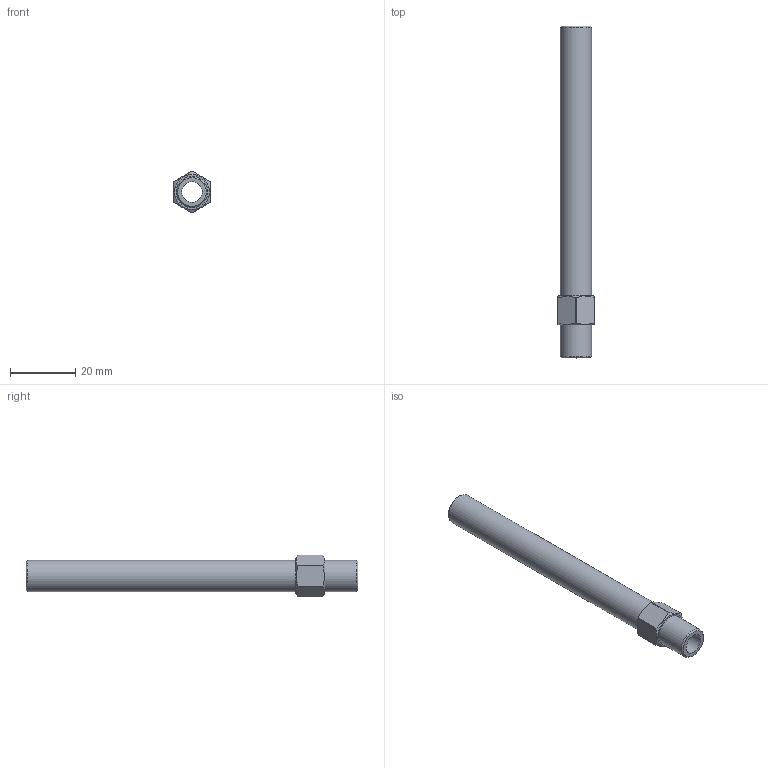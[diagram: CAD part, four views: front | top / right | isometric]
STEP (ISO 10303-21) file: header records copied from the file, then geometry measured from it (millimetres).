
FILE_DESCRIPTION(/* description */ (''),/* implementation_level */ '2;1');
FILE_NAME(/* name */ 'C:/Users/drich/Desktop/APN18-4 v1.step',/* time_stamp */ '2019-12-27T17:51:35-06:00',/* author */ (''),/* organization */ (''),/* preprocessor_version */ 'ST-DEVELOPER v18',/* originating_system */ 'Autodesk Translation Framework v8.12.0.6',/* authorisation */ '');
FILE_SCHEMA (('AUTOMOTIVE_DESIGN { 1 0 10303 214 3 1 1 }'));
Length unit declared in the file: inch
Products named in the file (1): APN18-4
Bounding box: 11.07 x 101.6 x 12.7 mm (x, y, z)
Volume: 4454.4 mm3; surface area: 5284.6 mm2
Topology: 1 solids, 1 shells, 23 faces, 59 edges, 40 vertices
Faces by surface type: plane 10, cylinder 9, cone 4
Full cylindrical faces by diameter (mm): 6.35 x1, 9.621 x2
Entity records: 751 total; most frequent: CARTESIAN_POINT 147, DIRECTION 123, ORIENTED_EDGE 118, EDGE_CURVE 59, AXIS2_PLACEMENT_3D 52, VERTEX_POINT 40, CIRCLE 28, EDGE_LOOP 27
